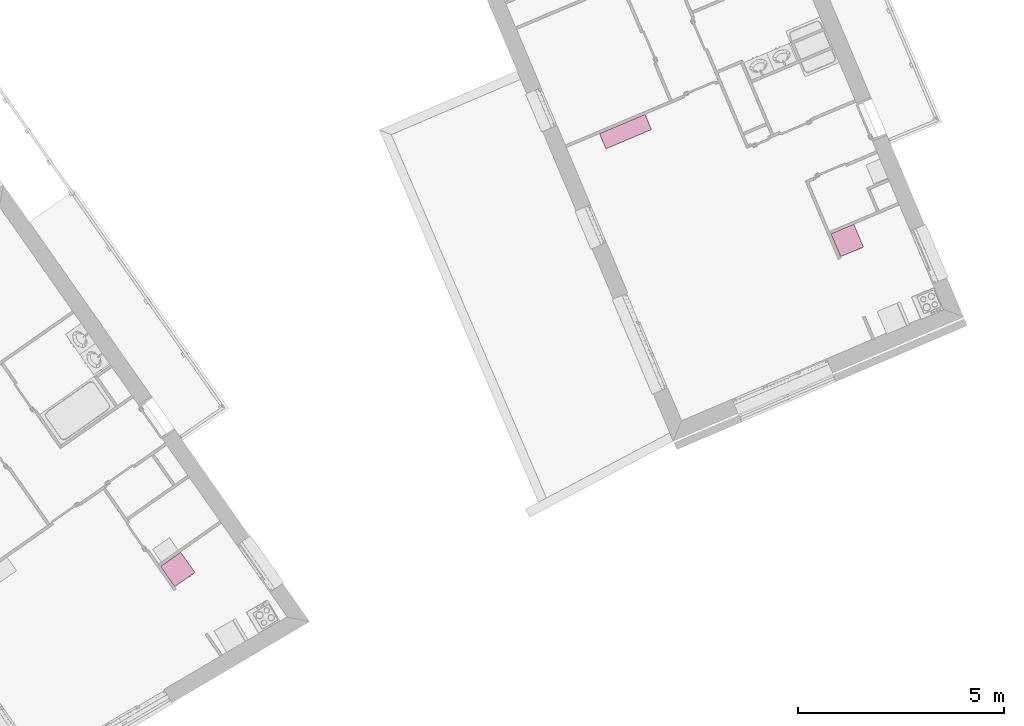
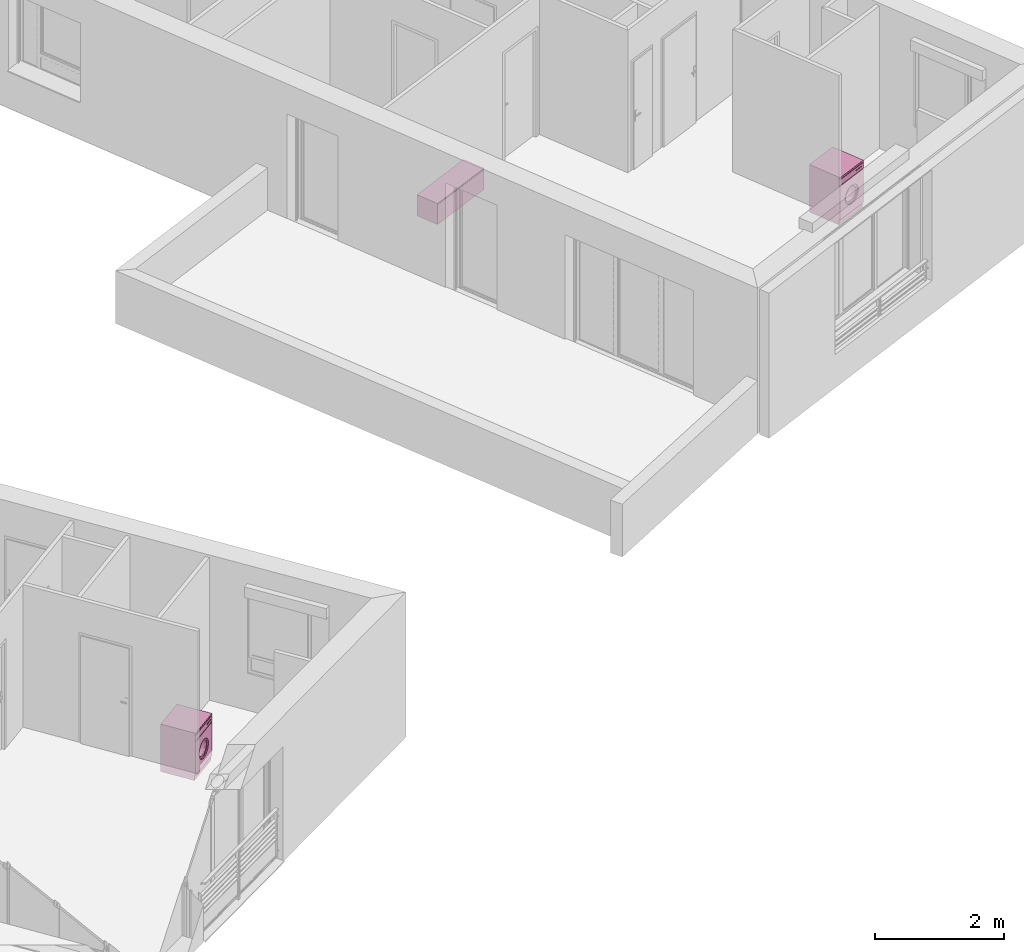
# One storey, part 103 of 121: 3 furnishings.
"""IFC2X3 building model written with IfcOpenShell, lengths in metres."""

from ifc_helpers import new_model, entity, si_unit, converted_unit, derived_unit, money_unit, direction, frame, origin_with_axes, place, context, subcontext, project, spatial, open_shell, faceted_brep, surface_model, source, transform, mapped, type_object, element, save


model = new_model("IFC2X3")

# Units and contexts
model_context = context("Model", 3, precision=1e-05, world=origin_with_axes(), true_north=direction((0.0, 1.0)))
body_context = subcontext(model_context, "Body", "Model", "MODEL_VIEW")
ifc_project = project(units=[si_unit("LENGTHUNIT", "METRE"), si_unit("AREAUNIT", "SQUARE_METRE"), si_unit("VOLUMEUNIT", "CUBIC_METRE"), converted_unit("PLANEANGLEUNIT", "DEGREE", entity("IfcPlaneAngleMeasure", 0.0174532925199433), si_unit("PLANEANGLEUNIT", "RADIAN"), dimensions=[0, 0, 0, 0, 0, 0, 0]), money_unit("CHF"), converted_unit("TIMEUNIT", "Year", entity("IfcTimeMeasure", 31557600.0), si_unit("TIMEUNIT", "SECOND"), dimensions=[0, 0, 1, 0, 0, 0, 0]), si_unit("MASSUNIT", "GRAM", prefix="KILO"), si_unit("THERMODYNAMICTEMPERATUREUNIT", "DEGREE_CELSIUS"), si_unit("LUMINOUSINTENSITYUNIT", "LUMEN"), si_unit("ENERGYUNIT", "JOULE", prefix="MEGA"), derived_unit("THERMALCONDUCTANCEUNIT", [(si_unit("POWERUNIT", "WATT"), 1), (si_unit("LENGTHUNIT", "METRE"), -1), (si_unit("THERMODYNAMICTEMPERATUREUNIT", "KELVIN"), -1)]), derived_unit("SPECIFICHEATCAPACITYUNIT", [(si_unit("ENERGYUNIT", "JOULE"), 1), (si_unit("MASSUNIT", "GRAM", prefix="KILO"), -1), (si_unit("THERMODYNAMICTEMPERATUREUNIT", "KELVIN"), -1)]), derived_unit("MASSDENSITYUNIT", [(si_unit("MASSUNIT", "GRAM", prefix="KILO"), 1), (si_unit("VOLUMEUNIT", "CUBIC_METRE"), -1)])], contexts=[model_context])

# Site, building, storey
site_placement = place(None, origin_with_axes())
site = spatial("IfcSite", under=ifc_project, at=site_placement, Name="Site", CompositionType="ELEMENT")
building_placement = place(site_placement, origin_with_axes())
building = spatial("IfcBuilding", under=site, at=building_placement, Name="Bâtiment", CompositionType="ELEMENT")
storey_placement = place(building_placement, frame((0.0, 0.0, 2.75), z_axis=(0.0, 0.0, 1.0), x_axis=(1.0, 0.0, 0.0)))
storey = spatial("IfcBuildingStorey", under=building, at=storey_placement, Name="Etage 1", CompositionType="ELEMENT", Elevation=2.75)

# Furnishings
furnishing_element_type_1 = type_object("IfcFurnishingElementType", Name="Meuble à plans 27")
shared_shape_1 = source(origin_with_axes(), body_context, "Body", "SurfaceModel", [
    surface_model("IfcShellBasedSurfaceModel", [(-1.18, 0.02, 0.0), (-1.18, 0.4, 0.0), (-0.02, 0.4, 0.0), (-0.02, 0.02, 0.0)], [open_shell([[[0, 1, 2, 3]]])]),
    faceted_brep([(0.0, 0.4, 0.0), (0.0, 0.0, 0.0), (-1.2, 0.0, 0.0), (-1.2, 0.4, 0.0), (0.0, 0.4, 0.4), (0.0, 0.0, 0.4), (-1.2, 0.0, 0.4), (-0.02, 0.0, 0.02), (-1.18, 0.0, 0.02), (-1.18, 0.0, 0.38), (-0.02, 0.0, 0.38), (-1.2, 0.4, 0.4), (-0.02, 0.4, 0.01999999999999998), (-0.02, 0.4, 0.38), (-1.18, 0.4, 0.38), (-1.18, 0.4, 0.01999999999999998)], [[[0, 1, 2, 3]], [[4, 5, 1, 0]], [[1, 5, 6, 2], [7, 8, 9, 10]], [[3, 2, 6, 11]], [[0, 3, 11, 4], [12, 13, 14, 15]], [[11, 6, 5, 4]], [[15, 8, 7, 12]], [[14, 9, 8, 15]], [[13, 10, 9, 14]], [[12, 7, 10, 13]]]),
    faceted_brep([(-1.18, 0.4, 0.01999999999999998), (-1.18, 0.4, 0.38), (-0.02, 0.4, 0.38), (-0.02, 0.4, 0.01999999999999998), (-1.18, 0.38, 0.01999999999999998), (-1.18, 0.3800000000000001, 0.38), (-0.02, 0.3800000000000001, 0.38), (-0.02, 0.38, 0.01999999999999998)], [[[0, 1, 2, 3]], [[0, 4, 5, 1]], [[1, 5, 6, 2]], [[2, 6, 7, 3]], [[3, 7, 4, 0]], [[7, 6, 5, 4]]]),
    faceted_brep([(-1.18, 0.0, 0.02), (-1.18, 0.38, 0.02), (-0.02, 0.38, 0.02), (-0.02, 0.0, 0.02), (-1.18, 0.0, 0.3750000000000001), (-1.18, 0.38, 0.3750000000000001), (-0.02, 0.38, 0.3750000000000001), (-0.02, 0.0, 0.3750000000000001)], [[[0, 1, 2, 3]], [[0, 4, 5, 1]], [[1, 5, 6, 2]], [[2, 6, 7, 3]], [[3, 7, 4, 0]], [[7, 6, 5, 4]]]),
])
furnishing_placement = place(storey_placement, frame((9571.386973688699, -1058.231178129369, 57.92018680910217), z_axis=(0.0, 0.0, 1.0), x_axis=(0.9214205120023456, 0.3885669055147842, 0.0)))
element("IfcFurnishingElement", 1, at=furnishing_placement, inside=storey, type_object=furnishing_element_type_1, Name="Obj.-376", context=body_context, shape_type="MappedRepresentation", body=[
    mapped(shared_shape_1, transform((0.0, 0.0, 0.0))),
])
furnishing_element_type_2 = type_object("IfcFurnishingElementType", Name="Machine à laver")
shared_shape_2 = source(origin_with_axes(), body_context, "Body", "SurfaceModel", [
    faceted_brep([(0.0, 0.02, 0.1), (0.0, 0.0, 0.1), (-0.6, 0.0, 0.1), (-0.6, 0.02, 0.1), (0.0, 0.02000000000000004, 0.74), (0.0, 0.0, 0.74), (-0.6, 0.0, 0.74), (-0.4714285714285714, 0.0, 0.42), (-0.4655872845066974, 0.0, 0.4643689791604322), (-0.448461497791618, 0.0, 0.5057142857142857), (-0.4212183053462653, 0.0, 0.5412183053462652), (-0.3857142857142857, 0.0, 0.568461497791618), (-0.3443689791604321, 0.0, 0.5855872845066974), (-0.3, 0.0, 0.5914285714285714), (-0.2556310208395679, 0.0, 0.5855872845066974), (-0.2142857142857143, 0.0, 0.5684614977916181), (-0.1787816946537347, 0.0, 0.5412183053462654), (-0.1515385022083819, 0.0, 0.5057142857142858), (-0.1344127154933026, 0.0, 0.4643689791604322), (-0.1285714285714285, 0.0, 0.42), (-0.1344127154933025, 0.0, 0.3756310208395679), (-0.1515385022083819, 0.0, 0.3342857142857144), (-0.1787816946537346, 0.0, 0.2987816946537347), (-0.2142857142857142, 0.0, 0.2715385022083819), (-0.2556310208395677, 0.0, 0.2544127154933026), (-0.2999999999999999, 0.0, 0.2485714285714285), (-0.344368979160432, 0.0, 0.2544127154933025), (-0.3857142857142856, 0.0, 0.2715385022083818), (-0.4212183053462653, 0.0, 0.2987816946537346), (-0.448461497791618, 0.0, 0.3342857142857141), (-0.4655872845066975, 0.0, 0.3756310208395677), (-0.6, 0.02000000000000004, 0.74), (-0.4714285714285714, 0.02000000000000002, 0.42), (-0.4655872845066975, 0.02000000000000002, 0.3756310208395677), (-0.448461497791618, 0.02000000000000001, 0.3342857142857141), (-0.4212183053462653, 0.02000000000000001, 0.2987816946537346), (-0.3857142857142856, 0.02000000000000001, 0.2715385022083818), (-0.344368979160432, 0.02000000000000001, 0.2544127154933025), (-0.2999999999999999, 0.02000000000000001, 0.2485714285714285), (-0.2556310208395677, 0.02000000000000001, 0.2544127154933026), (-0.2142857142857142, 0.02000000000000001, 0.2715385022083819), (-0.1787816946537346, 0.02000000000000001, 0.2987816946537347), (-0.1515385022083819, 0.02000000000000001, 0.3342857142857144), (-0.1344127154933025, 0.02000000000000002, 0.3756310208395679), (-0.1285714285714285, 0.02000000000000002, 0.42), (-0.1344127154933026, 0.02000000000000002, 0.4643689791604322), (-0.1515385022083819, 0.02000000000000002, 0.5057142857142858), (-0.1787816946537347, 0.02000000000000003, 0.5412183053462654), (-0.2142857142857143, 0.02000000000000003, 0.5684614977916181), (-0.2556310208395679, 0.02000000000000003, 0.5855872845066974), (-0.3, 0.02000000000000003, 0.5914285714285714), (-0.3443689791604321, 0.02000000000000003, 0.5855872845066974), (-0.3857142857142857, 0.02000000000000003, 0.568461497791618), (-0.4212183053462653, 0.02000000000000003, 0.5412183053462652), (-0.448461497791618, 0.02000000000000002, 0.5057142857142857), (-0.4655872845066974, 0.02000000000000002, 0.4643689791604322)], [[[0, 1, 2, 3]], [[4, 5, 1, 0]], [[1, 5, 6, 2], [7, 8, 9, 10, 11, 12, 13, 14, 15, 16, 17, 18, 19, 20, 21, 22, 23, 24, 25, 26, 27, 28, 29, 30]], [[3, 2, 6, 31]], [[0, 3, 31, 4], [32, 33, 34, 35, 36, 37, 38, 39, 40, 41, 42, 43, 44, 45, 46, 47, 48, 49, 50, 51, 52, 53, 54, 55]], [[31, 6, 5, 4]], [[55, 8, 7, 32]], [[54, 9, 8, 55]], [[53, 10, 9, 54]], [[52, 11, 10, 53]], [[51, 12, 11, 52]], [[50, 13, 12, 51]], [[49, 14, 13, 50]], [[48, 15, 14, 49]], [[47, 16, 15, 48]], [[46, 17, 16, 47]], [[45, 18, 17, 46]], [[44, 19, 18, 45]], [[43, 20, 19, 44]], [[42, 21, 20, 43]], [[41, 22, 21, 42]], [[40, 23, 22, 41]], [[39, 24, 23, 40]], [[38, 25, 24, 39]], [[37, 26, 25, 38]], [[36, 27, 26, 37]], [[35, 28, 27, 36]], [[34, 29, 28, 35]], [[33, 30, 29, 34]], [[32, 7, 30, 33]]]),
    faceted_brep([(-0.4714285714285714, 0.04000000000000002, 0.42), (-0.4714285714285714, 0.02000000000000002, 0.42), (-0.4655872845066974, 0.02000000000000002, 0.4643689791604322), (-0.4655872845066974, 0.04000000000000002, 0.4643689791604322), (-0.4655872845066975, 0.04000000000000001, 0.3756310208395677), (-0.4655872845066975, 0.02000000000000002, 0.3756310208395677), (-0.448461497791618, 0.02000000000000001, 0.3342857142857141), (-0.4212183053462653, 0.02000000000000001, 0.2987816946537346), (-0.3857142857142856, 0.02000000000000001, 0.2715385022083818), (-0.344368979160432, 0.02000000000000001, 0.2544127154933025), (-0.2999999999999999, 0.02000000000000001, 0.2485714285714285), (-0.2556310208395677, 0.02000000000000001, 0.2544127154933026), (-0.2142857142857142, 0.02000000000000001, 0.2715385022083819), (-0.1787816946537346, 0.02000000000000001, 0.2987816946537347), (-0.1515385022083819, 0.02000000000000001, 0.3342857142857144), (-0.1344127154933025, 0.02000000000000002, 0.3756310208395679), (-0.1285714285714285, 0.02000000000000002, 0.42), (-0.1344127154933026, 0.02000000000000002, 0.4643689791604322), (-0.1515385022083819, 0.02000000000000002, 0.5057142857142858), (-0.1787816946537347, 0.02000000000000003, 0.5412183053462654), (-0.2142857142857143, 0.02000000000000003, 0.5684614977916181), (-0.2556310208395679, 0.02000000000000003, 0.5855872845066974), (-0.3, 0.02000000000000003, 0.5914285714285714), (-0.3443689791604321, 0.02000000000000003, 0.5855872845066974), (-0.3857142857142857, 0.02000000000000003, 0.568461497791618), (-0.4212183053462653, 0.02000000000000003, 0.5412183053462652), (-0.448461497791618, 0.02000000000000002, 0.5057142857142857), (-0.4371428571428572, 0.02000000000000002, 0.42), (-0.432469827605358, 0.02000000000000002, 0.4554951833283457), (-0.4187691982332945, 0.02000000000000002, 0.4885714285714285), (-0.3969746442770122, 0.02000000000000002, 0.5169746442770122), (-0.3685714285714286, 0.02000000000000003, 0.5387691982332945), (-0.3354951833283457, 0.02000000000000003, 0.552469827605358), (-0.3, 0.02000000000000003, 0.5571428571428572), (-0.2645048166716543, 0.02000000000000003, 0.552469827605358), (-0.2314285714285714, 0.02000000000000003, 0.5387691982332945), (-0.2030253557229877, 0.02000000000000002, 0.5169746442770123), (-0.1812308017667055, 0.02000000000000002, 0.4885714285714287), (-0.167530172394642, 0.02000000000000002, 0.4554951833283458), (-0.1628571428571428, 0.02000000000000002, 0.42), (-0.167530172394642, 0.02000000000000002, 0.3845048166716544), (-0.1812308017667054, 0.02000000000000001, 0.3514285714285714), (-0.2030253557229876, 0.02000000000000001, 0.3230253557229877), (-0.2314285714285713, 0.02000000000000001, 0.3012308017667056), (-0.2645048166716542, 0.02000000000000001, 0.287530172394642), (-0.2999999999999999, 0.02000000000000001, 0.2828571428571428), (-0.3354951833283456, 0.02000000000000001, 0.287530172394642), (-0.3685714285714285, 0.02000000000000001, 0.3012308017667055), (-0.3969746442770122, 0.02000000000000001, 0.3230253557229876), (-0.4187691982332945, 0.02000000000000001, 0.3514285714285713), (-0.432469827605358, 0.02000000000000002, 0.3845048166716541), (-0.448461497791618, 0.04000000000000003, 0.5057142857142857), (-0.4212183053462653, 0.04000000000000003, 0.5412183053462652), (-0.3857142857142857, 0.04000000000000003, 0.568461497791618), (-0.3443689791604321, 0.04000000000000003, 0.5855872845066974), (-0.3, 0.04000000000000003, 0.5914285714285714), (-0.2556310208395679, 0.04000000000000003, 0.5855872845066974), (-0.2142857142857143, 0.04000000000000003, 0.5684614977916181), (-0.1787816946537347, 0.04000000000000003, 0.5412183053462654), (-0.1515385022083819, 0.04000000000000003, 0.5057142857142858), (-0.1344127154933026, 0.04000000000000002, 0.4643689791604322), (-0.1285714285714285, 0.04000000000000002, 0.42), (-0.1344127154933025, 0.04000000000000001, 0.3756310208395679), (-0.1515385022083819, 0.04000000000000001, 0.3342857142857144), (-0.1787816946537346, 0.04000000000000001, 0.2987816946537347), (-0.2142857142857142, 0.04000000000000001, 0.2715385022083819), (-0.2556310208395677, 0.04000000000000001, 0.2544127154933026), (-0.2999999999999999, 0.04000000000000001, 0.2485714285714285), (-0.344368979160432, 0.04000000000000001, 0.2544127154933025), (-0.3857142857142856, 0.04000000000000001, 0.2715385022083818), (-0.4212183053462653, 0.04000000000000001, 0.2987816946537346), (-0.448461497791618, 0.04000000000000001, 0.3342857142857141), (-0.4371428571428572, 0.04000000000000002, 0.42), (-0.432469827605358, 0.04000000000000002, 0.3845048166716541), (-0.4187691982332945, 0.04000000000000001, 0.3514285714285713), (-0.3969746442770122, 0.04000000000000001, 0.3230253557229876), (-0.3685714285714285, 0.04000000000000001, 0.3012308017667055), (-0.3354951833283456, 0.04000000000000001, 0.287530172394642), (-0.2999999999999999, 0.04000000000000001, 0.2828571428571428), (-0.2645048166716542, 0.04000000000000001, 0.287530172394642), (-0.2314285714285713, 0.04000000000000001, 0.3012308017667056), (-0.2030253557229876, 0.04000000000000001, 0.3230253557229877), (-0.1812308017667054, 0.04000000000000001, 0.3514285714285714), (-0.167530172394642, 0.04000000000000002, 0.3845048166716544), (-0.1628571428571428, 0.04000000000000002, 0.42), (-0.167530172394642, 0.04000000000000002, 0.4554951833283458), (-0.1812308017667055, 0.04000000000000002, 0.4885714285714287), (-0.2030253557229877, 0.04000000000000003, 0.5169746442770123), (-0.2314285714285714, 0.04000000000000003, 0.5387691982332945), (-0.2645048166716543, 0.04000000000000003, 0.552469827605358), (-0.3, 0.04000000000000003, 0.5571428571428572), (-0.3354951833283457, 0.04000000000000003, 0.552469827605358), (-0.3685714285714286, 0.04000000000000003, 0.5387691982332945), (-0.3969746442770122, 0.04000000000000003, 0.5169746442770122), (-0.4187691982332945, 0.04000000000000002, 0.4885714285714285), (-0.432469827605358, 0.04000000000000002, 0.4554951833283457)], [[[0, 1, 2, 3]], [[4, 5, 1, 0]], [[1, 5, 6, 7, 8, 9, 10, 11, 12, 13, 14, 15, 16, 17, 18, 19, 20, 21, 22, 23, 24, 25, 26, 2], [27, 28, 29, 30, 31, 32, 33, 34, 35, 36, 37, 38, 39, 40, 41, 42, 43, 44, 45, 46, 47, 48, 49, 50]], [[3, 2, 26, 51]], [[0, 3, 51, 52, 53, 54, 55, 56, 57, 58, 59, 60, 61, 62, 63, 64, 65, 66, 67, 68, 69, 70, 71, 4], [72, 73, 74, 75, 76, 77, 78, 79, 80, 81, 82, 83, 84, 85, 86, 87, 88, 89, 90, 91, 92, 93, 94, 95]], [[71, 6, 5, 4]], [[70, 7, 6, 71]], [[69, 8, 7, 70]], [[68, 9, 8, 69]], [[67, 10, 9, 68]], [[66, 11, 10, 67]], [[65, 12, 11, 66]], [[64, 13, 12, 65]], [[63, 14, 13, 64]], [[62, 15, 14, 63]], [[61, 16, 15, 62]], [[60, 17, 16, 61]], [[59, 18, 17, 60]], [[58, 19, 18, 59]], [[57, 20, 19, 58]], [[56, 21, 20, 57]], [[55, 22, 21, 56]], [[54, 23, 22, 55]], [[53, 24, 23, 54]], [[52, 25, 24, 53]], [[51, 26, 25, 52]], [[95, 28, 27, 72]], [[94, 29, 28, 95]], [[93, 30, 29, 94]], [[92, 31, 30, 93]], [[91, 32, 31, 92]], [[90, 33, 32, 91]], [[89, 34, 33, 90]], [[88, 35, 34, 89]], [[87, 36, 35, 88]], [[86, 37, 36, 87]], [[85, 38, 37, 86]], [[84, 39, 38, 85]], [[83, 40, 39, 84]], [[82, 41, 40, 83]], [[81, 42, 41, 82]], [[80, 43, 42, 81]], [[79, 44, 43, 80]], [[78, 45, 44, 79]], [[77, 46, 45, 78]], [[76, 47, 46, 77]], [[75, 48, 47, 76]], [[74, 49, 48, 75]], [[73, 50, 49, 74]], [[72, 27, 50, 73]]]),
    surface_model("IfcShellBasedSurfaceModel", [(-0.2645048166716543, 0.03999999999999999, 0.552469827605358), (-0.2733786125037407, 0.14, 0.5193523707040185), (-0.3, 0.14, 0.5228571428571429), (-0.3, 0.03999999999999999, 0.5571428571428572), (-0.2314285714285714, 0.03999999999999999, 0.5387691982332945), (-0.2485714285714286, 0.14, 0.5090768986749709), (-0.2272690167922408, 0.14, 0.4927309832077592), (-0.2109231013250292, 0.14, 0.4714285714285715), (-0.2006476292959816, 0.14, 0.4466213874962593), (-0.1971428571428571, 0.14, 0.4200000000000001), (-0.2006476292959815, 0.14, 0.3933786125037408), (-0.2109231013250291, 0.14, 0.3685714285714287), (-0.2272690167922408, 0.14, 0.3472690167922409), (-0.2485714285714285, 0.14, 0.3309231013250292), (-0.2733786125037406, 0.14, 0.3206476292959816), (-0.2999999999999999, 0.14, 0.3171428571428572), (-0.3266213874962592, 0.14, 0.3206476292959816), (-0.3514285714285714, 0.14, 0.3309231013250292), (-0.3727309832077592, 0.14, 0.3472690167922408), (-0.3890768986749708, 0.14, 0.3685714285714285), (-0.3993523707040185, 0.14, 0.3933786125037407), (-0.4028571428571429, 0.14, 0.42), (-0.3993523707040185, 0.14, 0.4466213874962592), (-0.3890768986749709, 0.14, 0.4714285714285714), (-0.3727309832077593, 0.14, 0.4927309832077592), (-0.3514285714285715, 0.14, 0.5090768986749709), (-0.3266213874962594, 0.14, 0.5193523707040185), (-0.3354951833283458, 0.03999999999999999, 0.552469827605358), (-0.2030253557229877, 0.03999999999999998, 0.5169746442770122), (-0.1812308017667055, 0.03999999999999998, 0.4885714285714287), (-0.167530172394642, 0.03999999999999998, 0.4554951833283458), (-0.1628571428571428, 0.03999999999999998, 0.4200000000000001), (-0.167530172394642, 0.03999999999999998, 0.3845048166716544), (-0.1812308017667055, 0.03999999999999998, 0.3514285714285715), (-0.2030253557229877, 0.03999999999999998, 0.3230253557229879), (-0.2314285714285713, 0.03999999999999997, 0.3012308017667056), (-0.2645048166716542, 0.03999999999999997, 0.2875301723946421), (-0.2999999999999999, 0.03999999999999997, 0.2828571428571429), (-0.3354951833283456, 0.03999999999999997, 0.2875301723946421), (-0.3685714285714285, 0.03999999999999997, 0.3012308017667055), (-0.3969746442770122, 0.03999999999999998, 0.3230253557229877), (-0.4187691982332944, 0.03999999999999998, 0.3514285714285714), (-0.432469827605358, 0.03999999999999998, 0.3845048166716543), (-0.4371428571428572, 0.03999999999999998, 0.4199999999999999), (-0.432469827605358, 0.03999999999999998, 0.4554951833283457), (-0.4187691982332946, 0.03999999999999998, 0.4885714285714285), (-0.3969746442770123, 0.03999999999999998, 0.5169746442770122), (-0.3685714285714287, 0.03999999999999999, 0.5387691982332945)], [open_shell([[[0, 1, 2, 3]], [[4, 5, 1, 0]], [[2, 1, 5, 6, 7, 8, 9, 10, 11, 12, 13, 14, 15, 16, 17, 18, 19, 20, 21, 22, 23, 24, 25, 26]], [[3, 2, 26, 27]], [[28, 6, 5, 4]], [[29, 7, 6, 28]], [[30, 8, 7, 29]], [[31, 9, 8, 30]], [[32, 10, 9, 31]], [[33, 11, 10, 32]], [[34, 12, 11, 33]], [[35, 13, 12, 34]], [[36, 14, 13, 35]], [[37, 15, 14, 36]], [[38, 16, 15, 37]], [[39, 17, 16, 38]], [[40, 18, 17, 39]], [[41, 19, 18, 40]], [[42, 20, 19, 41]], [[43, 21, 20, 42]], [[44, 22, 21, 43]], [[45, 23, 22, 44]], [[46, 24, 23, 45]], [[47, 25, 24, 46]], [[27, 26, 25, 47]]])]),
    surface_model("IfcShellBasedSurfaceModel", [(0.0, 0.02, 0.1), (0.0, 0.6, 0.09999999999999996), (0.0, 0.6, 0.87), (0.0, 0.02000000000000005, 0.87)], [open_shell([[[0, 1, 2, 3]]])]),
    surface_model("IfcShellBasedSurfaceModel", [(-0.6, 0.01999999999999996, 0.1), (-0.6, 0.5999999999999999, 0.09999999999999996), (-0.6, 0.5999999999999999, 0.87), (-0.6, 0.02000000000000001, 0.87)], [open_shell([[[0, 1, 2, 3]]])]),
    surface_model("IfcShellBasedSurfaceModel", [(0.0, 0.6, 0.1), (-0.6, 0.6, 0.1), (-0.6, 0.6, 0.87), (0.0, 0.6, 0.87)], [open_shell([[[0, 1, 2, 3]]])]),
    faceted_brep([(0.0, 0.02, 0.0), (0.0, 0.02, 0.1), (-0.6, 0.02, 0.1), (-0.6, 0.02, 0.0), (0.0, 0.6, 0.0), (0.0, 0.6, 0.1), (-0.6, 0.6, 0.1), (-0.6, 0.6, 0.0)], [[[0, 1, 2, 3]], [[4, 5, 1, 0]], [[1, 5, 6, 2]], [[3, 2, 6, 7]], [[0, 3, 7, 4]], [[7, 6, 5, 4]]]),
    faceted_brep([(0.0, 0.02, 0.75), (0.0, 0.0, 0.75), (-0.6, 0.0, 0.75), (-0.6, 0.02, 0.75), (0.0, 0.02000000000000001, 0.86), (0.0, 0.0, 0.86), (-0.6, 0.0, 0.86), (-0.6, 0.02000000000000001, 0.86)], [[[0, 1, 2, 3]], [[4, 5, 1, 0]], [[1, 5, 6, 2]], [[3, 2, 6, 7]], [[0, 3, 7, 4]], [[7, 6, 5, 4]]]),
    surface_model("IfcShellBasedSurfaceModel", [(0.0, 0.02, 0.74), (-0.6, 0.02, 0.74), (-0.6, 0.02000000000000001, 0.87), (0.0, 0.02000000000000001, 0.87)], [open_shell([[[0, 1, 2, 3]]])]),
    faceted_brep([(0.0, 0.0, 0.87), (0.0, 0.0, 0.9), (-0.6, 0.0, 0.9), (-0.6, 0.0, 0.87), (0.0, 0.6, 0.87), (0.0, 0.6, 0.9), (-0.6, 0.6, 0.9), (-0.6, 0.6, 0.87)], [[[0, 1, 2, 3]], [[4, 5, 1, 0]], [[1, 5, 6, 2]], [[3, 2, 6, 7]], [[0, 3, 7, 4]], [[7, 6, 5, 4]]]),
    faceted_brep([(-0.06866025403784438, 0.0, 0.8049999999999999), (-0.06999999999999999, 0.0, 0.8099999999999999), (-0.06866025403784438, 0.0, 0.815), (-0.065, 0.0, 0.8186602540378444), (-0.06, 0.0, 0.82), (-0.055, 0.0, 0.8186602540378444), (-0.05133974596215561, 0.0, 0.815), (-0.05, 0.0, 0.8099999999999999), (-0.05133974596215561, 0.0, 0.8049999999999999), (-0.05499999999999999, 0.0, 0.8013397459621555), (-0.05999999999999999, 0.0, 0.7999999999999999), (-0.06499999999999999, 0.0, 0.8013397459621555), (-0.06866025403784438, -0.01, 0.8049999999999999), (-0.06999999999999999, -0.01, 0.8099999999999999), (-0.06866025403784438, -0.01, 0.815), (-0.065, -0.01, 0.8186602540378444), (-0.06, -0.01, 0.82), (-0.055, -0.01, 0.8186602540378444), (-0.05133974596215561, -0.01, 0.815), (-0.05, -0.01, 0.8099999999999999), (-0.05133974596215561, -0.01, 0.8049999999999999), (-0.05499999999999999, -0.01, 0.8013397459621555), (-0.05999999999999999, -0.01, 0.7999999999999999), (-0.06499999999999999, -0.01, 0.8013397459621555)], [[[0, 1, 2, 3, 4, 5, 6, 7, 8, 9, 10, 11]], [[0, 12, 13, 1]], [[1, 13, 14, 2]], [[2, 14, 15, 3]], [[3, 15, 16, 4]], [[4, 16, 17, 5]], [[5, 17, 18, 6]], [[6, 18, 19, 7]], [[7, 19, 20, 8]], [[8, 20, 21, 9]], [[9, 21, 22, 10]], [[10, 22, 23, 11]], [[11, 23, 12, 0]], [[12, 23, 22, 21, 20, 19, 18, 17, 16, 15, 14, 13]]]),
    faceted_brep([(-0.1086602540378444, 0.0, 0.8049999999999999), (-0.11, 0.0, 0.8099999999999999), (-0.1086602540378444, 0.0, 0.815), (-0.105, 0.0, 0.8186602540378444), (-0.1, 0.0, 0.82), (-0.095, 0.0, 0.8186602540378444), (-0.09133974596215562, 0.0, 0.815), (-0.09000000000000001, 0.0, 0.8099999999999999), (-0.09133974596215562, 0.0, 0.8049999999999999), (-0.095, 0.0, 0.8013397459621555), (-0.09999999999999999, 0.0, 0.7999999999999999), (-0.105, 0.0, 0.8013397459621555), (-0.1086602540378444, -0.01, 0.8049999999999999), (-0.11, -0.01, 0.8099999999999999), (-0.1086602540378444, -0.01, 0.815), (-0.105, -0.01, 0.8186602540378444), (-0.1, -0.01, 0.82), (-0.095, -0.01, 0.8186602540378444), (-0.09133974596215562, -0.01, 0.815), (-0.09000000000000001, -0.01, 0.8099999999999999), (-0.09133974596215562, -0.01, 0.8049999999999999), (-0.095, -0.01, 0.8013397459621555), (-0.09999999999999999, -0.01, 0.7999999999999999), (-0.105, -0.01, 0.8013397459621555)], [[[0, 1, 2, 3, 4, 5, 6, 7, 8, 9, 10, 11]], [[0, 12, 13, 1]], [[1, 13, 14, 2]], [[2, 14, 15, 3]], [[3, 15, 16, 4]], [[4, 16, 17, 5]], [[5, 17, 18, 6]], [[6, 18, 19, 7]], [[7, 19, 20, 8]], [[8, 20, 21, 9]], [[9, 21, 22, 10]], [[10, 22, 23, 11]], [[11, 23, 12, 0]], [[12, 23, 22, 21, 20, 19, 18, 17, 16, 15, 14, 13]]]),
    faceted_brep([(-0.1486602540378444, 0.0, 0.8049999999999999), (-0.15, 0.0, 0.8099999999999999), (-0.1486602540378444, 0.0, 0.815), (-0.145, 0.0, 0.8186602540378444), (-0.14, 0.0, 0.82), (-0.135, 0.0, 0.8186602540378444), (-0.1313397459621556, 0.0, 0.815), (-0.13, 0.0, 0.8099999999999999), (-0.1313397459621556, 0.0, 0.8049999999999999), (-0.135, 0.0, 0.8013397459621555), (-0.14, 0.0, 0.7999999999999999), (-0.145, 0.0, 0.8013397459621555), (-0.1486602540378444, -0.01, 0.8049999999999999), (-0.15, -0.01, 0.8099999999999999), (-0.1486602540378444, -0.01, 0.815), (-0.145, -0.01, 0.8186602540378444), (-0.14, -0.01, 0.82), (-0.135, -0.01, 0.8186602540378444), (-0.1313397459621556, -0.01, 0.815), (-0.13, -0.01, 0.8099999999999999), (-0.1313397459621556, -0.01, 0.8049999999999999), (-0.135, -0.01, 0.8013397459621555), (-0.14, -0.01, 0.7999999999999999), (-0.145, -0.01, 0.8013397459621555)], [[[0, 1, 2, 3, 4, 5, 6, 7, 8, 9, 10, 11]], [[0, 12, 13, 1]], [[1, 13, 14, 2]], [[2, 14, 15, 3]], [[3, 15, 16, 4]], [[4, 16, 17, 5]], [[5, 17, 18, 6]], [[6, 18, 19, 7]], [[7, 19, 20, 8]], [[8, 20, 21, 9]], [[9, 21, 22, 10]], [[10, 22, 23, 11]], [[11, 23, 12, 0]], [[12, 23, 22, 21, 20, 19, 18, 17, 16, 15, 14, 13]]]),
    faceted_brep([(-0.1886602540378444, 0.0, 0.8049999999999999), (-0.19, 0.0, 0.8099999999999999), (-0.1886602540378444, 0.0, 0.815), (-0.185, 0.0, 0.8186602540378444), (-0.18, 0.0, 0.82), (-0.175, 0.0, 0.8186602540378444), (-0.1713397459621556, 0.0, 0.815), (-0.17, 0.0, 0.8099999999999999), (-0.1713397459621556, 0.0, 0.8049999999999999), (-0.175, 0.0, 0.8013397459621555), (-0.18, 0.0, 0.7999999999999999), (-0.185, 0.0, 0.8013397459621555), (-0.1886602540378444, -0.01, 0.8049999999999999), (-0.19, -0.01, 0.8099999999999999), (-0.1886602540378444, -0.01, 0.815), (-0.185, -0.01, 0.8186602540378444), (-0.18, -0.01, 0.82), (-0.175, -0.01, 0.8186602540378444), (-0.1713397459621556, -0.01, 0.815), (-0.17, -0.01, 0.8099999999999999), (-0.1713397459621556, -0.01, 0.8049999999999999), (-0.175, -0.01, 0.8013397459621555), (-0.18, -0.01, 0.7999999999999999), (-0.185, -0.01, 0.8013397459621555)], [[[0, 1, 2, 3, 4, 5, 6, 7, 8, 9, 10, 11]], [[0, 12, 13, 1]], [[1, 13, 14, 2]], [[2, 14, 15, 3]], [[3, 15, 16, 4]], [[4, 16, 17, 5]], [[5, 17, 18, 6]], [[6, 18, 19, 7]], [[7, 19, 20, 8]], [[8, 20, 21, 9]], [[9, 21, 22, 10]], [[10, 22, 23, 11]], [[11, 23, 12, 0]], [[12, 23, 22, 21, 20, 19, 18, 17, 16, 15, 14, 13]]]),
])
for number, where, z_axis, x_axis, name in (
    (2, (9560.29903328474, -1068.989386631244, 57.49999999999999), (0.0, 0.0, 1.0), (0.8187432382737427, 0.5741598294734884, 0.0), "Obj.-019"),
    (3, (9576.537301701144, -1061.08324547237, 57.49999999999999), (0.0, 0.0, 1.0), (0.9214205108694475, 0.3885669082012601, 0.0), "Obj.-019"),
):
    element("IfcFurnishingElement", number, at=place(storey_placement, frame(where, z_axis=z_axis, x_axis=x_axis)), inside=storey, type_object=furnishing_element_type_2, Name=name, context=body_context, shape_type="MappedRepresentation", body=[
        mapped(shared_shape_2, transform((0.0, 0.0, 0.0))),
    ])

save(model, "model.ifc")
